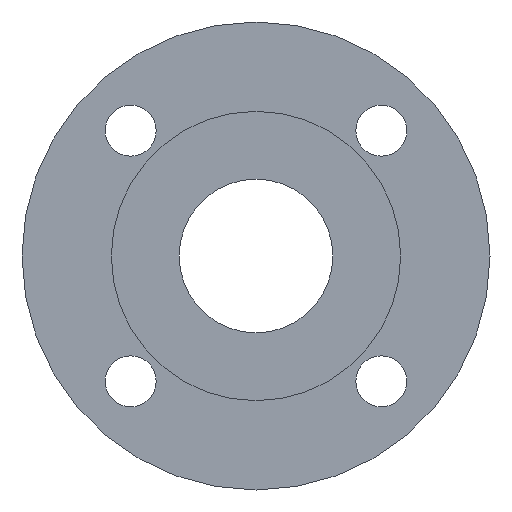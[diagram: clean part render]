
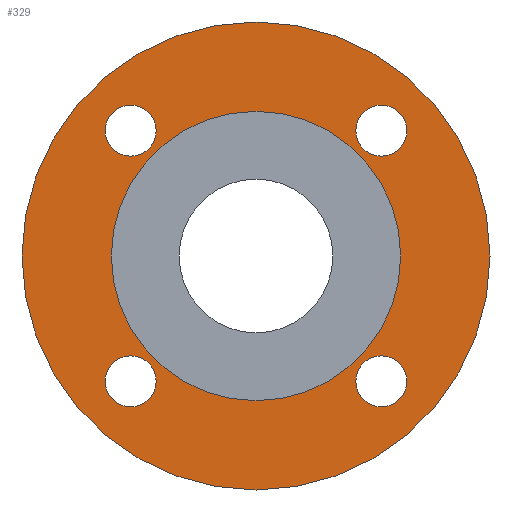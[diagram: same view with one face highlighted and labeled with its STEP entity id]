
A CAD part, left-side view. The second image highlights one B-rep face of the part: STEP entity #329.
In plain terms, the highlighted planar face has unit normal (-1, 0, 0).
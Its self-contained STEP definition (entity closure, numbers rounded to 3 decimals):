
#23=FACE_BOUND('',#70,.T.);
#24=FACE_BOUND('',#71,.T.);
#25=FACE_BOUND('',#72,.T.);
#26=FACE_BOUND('',#73,.T.);
#27=FACE_BOUND('',#74,.T.);
#32=PLANE('',#396);
#46=FACE_OUTER_BOUND('',#69,.T.);
#69=EDGE_LOOP('',(#282,#283));
#70=EDGE_LOOP('',(#284));
#71=EDGE_LOOP('',(#285));
#72=EDGE_LOOP('',(#286));
#73=EDGE_LOOP('',(#287));
#74=EDGE_LOOP('',(#288,#289));
#102=CIRCLE('',#357,9.);
#105=CIRCLE('',#361,9.);
#108=CIRCLE('',#365,9.);
#111=CIRCLE('',#369,9.);
#129=CIRCLE('',#394,51.);
#130=CIRCLE('',#395,51.);
#131=CIRCLE('',#397,82.5);
#132=CIRCLE('',#398,82.5);
#138=VERTEX_POINT('',#528);
#141=VERTEX_POINT('',#536);
#144=VERTEX_POINT('',#544);
#147=VERTEX_POINT('',#552);
#164=VERTEX_POINT('',#597);
#165=VERTEX_POINT('',#598);
#166=VERTEX_POINT('',#603);
#167=VERTEX_POINT('',#604);
#174=EDGE_CURVE('',#138,#138,#102,.T.);
#178=EDGE_CURVE('',#141,#141,#105,.T.);
#182=EDGE_CURVE('',#144,#144,#108,.T.);
#186=EDGE_CURVE('',#147,#147,#111,.T.);
#206=EDGE_CURVE('',#164,#165,#129,.T.);
#207=EDGE_CURVE('',#165,#164,#130,.T.);
#209=EDGE_CURVE('',#166,#167,#131,.T.);
#210=EDGE_CURVE('',#167,#166,#132,.T.);
#282=ORIENTED_EDGE('',*,*,#209,.F.);
#283=ORIENTED_EDGE('',*,*,#210,.F.);
#284=ORIENTED_EDGE('',*,*,#174,.T.);
#285=ORIENTED_EDGE('',*,*,#178,.T.);
#286=ORIENTED_EDGE('',*,*,#182,.T.);
#287=ORIENTED_EDGE('',*,*,#186,.T.);
#288=ORIENTED_EDGE('',*,*,#206,.T.);
#289=ORIENTED_EDGE('',*,*,#207,.T.);
#329=ADVANCED_FACE('',(#46,#23,#24,#25,#26,#27),#32,.T.);
#357=AXIS2_PLACEMENT_3D('',#530,#415,#416);
#361=AXIS2_PLACEMENT_3D('',#538,#424,#425);
#365=AXIS2_PLACEMENT_3D('',#546,#433,#434);
#369=AXIS2_PLACEMENT_3D('',#554,#442,#443);
#394=AXIS2_PLACEMENT_3D('',#599,#494,#495);
#395=AXIS2_PLACEMENT_3D('',#600,#496,#497);
#396=AXIS2_PLACEMENT_3D('',#602,#499,#500);
#397=AXIS2_PLACEMENT_3D('',#605,#501,#502);
#398=AXIS2_PLACEMENT_3D('',#606,#503,#504);
#415=DIRECTION('center_axis',(1.,0.,0.));
#416=DIRECTION('ref_axis',(0.,-1.,0.));
#424=DIRECTION('center_axis',(1.,0.,0.));
#425=DIRECTION('ref_axis',(0.,0.,1.));
#433=DIRECTION('center_axis',(1.,0.,0.));
#434=DIRECTION('ref_axis',(0.,1.,0.));
#442=DIRECTION('center_axis',(1.,0.,0.));
#443=DIRECTION('ref_axis',(0.,0.,-1.));
#494=DIRECTION('center_axis',(1.,0.,0.));
#495=DIRECTION('ref_axis',(0.,0.,-1.));
#496=DIRECTION('center_axis',(1.,0.,0.));
#497=DIRECTION('ref_axis',(0.,0.,-1.));
#499=DIRECTION('center_axis',(-1.,0.,0.));
#500=DIRECTION('ref_axis',(0.,0.,1.));
#501=DIRECTION('center_axis',(1.,0.,0.));
#502=DIRECTION('ref_axis',(0.,0.,-1.));
#503=DIRECTION('center_axis',(1.,0.,0.));
#504=DIRECTION('ref_axis',(0.,0.,-1.));
#528=CARTESIAN_POINT('',(-42.,53.194,-44.194));
#530=CARTESIAN_POINT('Origin',(-42.,44.194,-44.194));
#536=CARTESIAN_POINT('',(-42.,-44.194,-53.194));
#538=CARTESIAN_POINT('Origin',(-42.,-44.194,-44.194));
#544=CARTESIAN_POINT('',(-42.,-53.194,44.194));
#546=CARTESIAN_POINT('Origin',(-42.,-44.194,44.194));
#552=CARTESIAN_POINT('',(-42.,44.194,53.194));
#554=CARTESIAN_POINT('Origin',(-42.,44.194,44.194));
#597=CARTESIAN_POINT('',(-42.,51.,0.));
#598=CARTESIAN_POINT('',(-42.,-51.,0.));
#599=CARTESIAN_POINT('Origin',(-42.,0.,0.));
#600=CARTESIAN_POINT('Origin',(-42.,0.,0.));
#602=CARTESIAN_POINT('Origin',(-42.,82.5,0.));
#603=CARTESIAN_POINT('',(-42.,82.5,0.));
#604=CARTESIAN_POINT('',(-42.,-82.5,0.));
#605=CARTESIAN_POINT('Origin',(-42.,0.,0.));
#606=CARTESIAN_POINT('Origin',(-42.,0.,0.));
